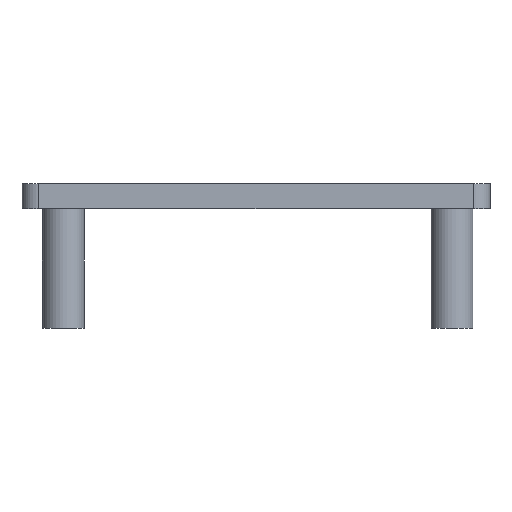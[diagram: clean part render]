
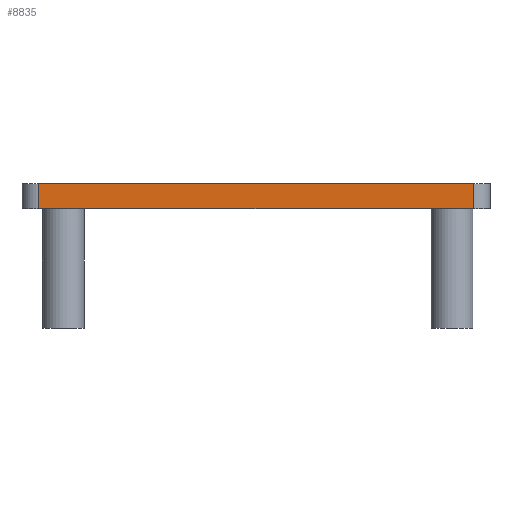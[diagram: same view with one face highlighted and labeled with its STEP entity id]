
A CAD part, front view. The second image highlights one B-rep face of the part: STEP entity #8835.
In plain terms, the highlighted planar face has unit normal (0, -1, 0).
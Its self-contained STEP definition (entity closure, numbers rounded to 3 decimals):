
#44 = PLANE('',#45);
#45 = AXIS2_PLACEMENT_3D('',#46,#47,#48);
#46 = CARTESIAN_POINT('',(-11.25,-4.6,65.7));
#47 = DIRECTION('',(0.,0.,1.));
#48 = DIRECTION('',(1.,0.,0.));
#72 = CYLINDRICAL_SURFACE('',#73,2.);
#73 = AXIS2_PLACEMENT_3D('',#74,#75,#76);
#74 = CARTESIAN_POINT('',(-9.25,-2.6,62.7));
#75 = DIRECTION('',(0.,0.,1.));
#76 = DIRECTION('',(-1.,-0.,0.));
#100 = PLANE('',#101);
#101 = AXIS2_PLACEMENT_3D('',#102,#103,#104);
#102 = CARTESIAN_POINT('',(-11.25,-4.6,62.7));
#103 = DIRECTION('',(0.,0.,1.));
#104 = DIRECTION('',(1.,0.,0.));
#143 = VERTEX_POINT('',#144);
#144 = CARTESIAN_POINT('',(-9.25,-4.6,65.7));
#166 = EDGE_CURVE('',#143,#167,#169,.T.);
#167 = VERTEX_POINT('',#168);
#168 = CARTESIAN_POINT('',(42.75,-4.6,65.7));
#169 = SURFACE_CURVE('',#170,(#174,#181),.PCURVE_S1.);
#170 = LINE('',#171,#172);
#171 = CARTESIAN_POINT('',(-11.25,-4.6,65.7));
#172 = VECTOR('',#173,1.);
#173 = DIRECTION('',(1.,0.,0.));
#174 = PCURVE('',#44,#175);
#175 = DEFINITIONAL_REPRESENTATION('',(#176),#180);
#176 = LINE('',#177,#178);
#177 = CARTESIAN_POINT('',(0.,0.));
#178 = VECTOR('',#179,1.);
#179 = DIRECTION('',(1.,0.));
#180 = ( GEOMETRIC_REPRESENTATION_CONTEXT(2) 
PARAMETRIC_REPRESENTATION_CONTEXT() REPRESENTATION_CONTEXT('2D SPACE',''
  ) );
#181 = PCURVE('',#182,#187);
#182 = PLANE('',#183);
#183 = AXIS2_PLACEMENT_3D('',#184,#185,#186);
#184 = CARTESIAN_POINT('',(-11.25,-4.6,62.7));
#185 = DIRECTION('',(0.,1.,0.));
#186 = DIRECTION('',(0.,0.,1.));
#187 = DEFINITIONAL_REPRESENTATION('',(#188),#192);
#188 = LINE('',#189,#190);
#189 = CARTESIAN_POINT('',(3.,0.));
#190 = VECTOR('',#191,1.);
#191 = DIRECTION('',(0.,1.));
#192 = ( GEOMETRIC_REPRESENTATION_CONTEXT(2) 
PARAMETRIC_REPRESENTATION_CONTEXT() REPRESENTATION_CONTEXT('2D SPACE',''
  ) );
#215 = CYLINDRICAL_SURFACE('',#216,2.);
#216 = AXIS2_PLACEMENT_3D('',#217,#218,#219);
#217 = CARTESIAN_POINT('',(42.75,-2.6,62.7));
#218 = DIRECTION('',(0.,0.,1.));
#219 = DIRECTION('',(1.,0.,-0.));
#7771 = VERTEX_POINT('',#7772);
#7772 = CARTESIAN_POINT('',(-9.25,-4.6,62.7));
#7794 = EDGE_CURVE('',#7771,#143,#7795,.T.);
#7795 = SURFACE_CURVE('',#7796,(#7800,#7807),.PCURVE_S1.);
#7796 = LINE('',#7797,#7798);
#7797 = CARTESIAN_POINT('',(-9.25,-4.6,62.7));
#7798 = VECTOR('',#7799,1.);
#7799 = DIRECTION('',(0.,0.,1.));
#7800 = PCURVE('',#72,#7801);
#7801 = DEFINITIONAL_REPRESENTATION('',(#7802),#7806);
#7802 = LINE('',#7803,#7804);
#7803 = CARTESIAN_POINT('',(1.571,0.));
#7804 = VECTOR('',#7805,1.);
#7805 = DIRECTION('',(0.,1.));
#7806 = ( GEOMETRIC_REPRESENTATION_CONTEXT(2) 
PARAMETRIC_REPRESENTATION_CONTEXT() REPRESENTATION_CONTEXT('2D SPACE',''
  ) );
#7807 = PCURVE('',#182,#7808);
#7808 = DEFINITIONAL_REPRESENTATION('',(#7809),#7813);
#7809 = LINE('',#7810,#7811);
#7810 = CARTESIAN_POINT('',(0.,2.));
#7811 = VECTOR('',#7812,1.);
#7812 = DIRECTION('',(1.,0.));
#7813 = ( GEOMETRIC_REPRESENTATION_CONTEXT(2) 
PARAMETRIC_REPRESENTATION_CONTEXT() REPRESENTATION_CONTEXT('2D SPACE',''
  ) );
#7876 = EDGE_CURVE('',#7771,#7877,#7879,.T.);
#7877 = VERTEX_POINT('',#7878);
#7878 = CARTESIAN_POINT('',(42.75,-4.6,62.7));
#7879 = SURFACE_CURVE('',#7880,(#7884,#7891),.PCURVE_S1.);
#7880 = LINE('',#7881,#7882);
#7881 = CARTESIAN_POINT('',(-11.25,-4.6,62.7));
#7882 = VECTOR('',#7883,1.);
#7883 = DIRECTION('',(1.,0.,0.));
#7884 = PCURVE('',#100,#7885);
#7885 = DEFINITIONAL_REPRESENTATION('',(#7886),#7890);
#7886 = LINE('',#7887,#7888);
#7887 = CARTESIAN_POINT('',(0.,0.));
#7888 = VECTOR('',#7889,1.);
#7889 = DIRECTION('',(1.,0.));
#7890 = ( GEOMETRIC_REPRESENTATION_CONTEXT(2) 
PARAMETRIC_REPRESENTATION_CONTEXT() REPRESENTATION_CONTEXT('2D SPACE',''
  ) );
#7891 = PCURVE('',#182,#7892);
#7892 = DEFINITIONAL_REPRESENTATION('',(#7893),#7897);
#7893 = LINE('',#7894,#7895);
#7894 = CARTESIAN_POINT('',(0.,0.));
#7895 = VECTOR('',#7896,1.);
#7896 = DIRECTION('',(0.,1.));
#7897 = ( GEOMETRIC_REPRESENTATION_CONTEXT(2) 
PARAMETRIC_REPRESENTATION_CONTEXT() REPRESENTATION_CONTEXT('2D SPACE',''
  ) );
#8835 = ADVANCED_FACE('',(#8836),#182,.F.);
#8836 = FACE_BOUND('',#8837,.F.);
#8837 = EDGE_LOOP('',(#8838,#8839,#8840,#8841));
#8838 = ORIENTED_EDGE('',*,*,#7876,.F.);
#8839 = ORIENTED_EDGE('',*,*,#7794,.T.);
#8840 = ORIENTED_EDGE('',*,*,#166,.T.);
#8841 = ORIENTED_EDGE('',*,*,#8842,.F.);
#8842 = EDGE_CURVE('',#7877,#167,#8843,.T.);
#8843 = SURFACE_CURVE('',#8844,(#8848,#8855),.PCURVE_S1.);
#8844 = LINE('',#8845,#8846);
#8845 = CARTESIAN_POINT('',(42.75,-4.6,62.7));
#8846 = VECTOR('',#8847,1.);
#8847 = DIRECTION('',(0.,0.,1.));
#8848 = PCURVE('',#182,#8849);
#8849 = DEFINITIONAL_REPRESENTATION('',(#8850),#8854);
#8850 = LINE('',#8851,#8852);
#8851 = CARTESIAN_POINT('',(0.,54.));
#8852 = VECTOR('',#8853,1.);
#8853 = DIRECTION('',(1.,0.));
#8854 = ( GEOMETRIC_REPRESENTATION_CONTEXT(2) 
PARAMETRIC_REPRESENTATION_CONTEXT() REPRESENTATION_CONTEXT('2D SPACE',''
  ) );
#8855 = PCURVE('',#215,#8856);
#8856 = DEFINITIONAL_REPRESENTATION('',(#8857),#8861);
#8857 = LINE('',#8858,#8859);
#8858 = CARTESIAN_POINT('',(-1.571,0.));
#8859 = VECTOR('',#8860,1.);
#8860 = DIRECTION('',(-0.,1.));
#8861 = ( GEOMETRIC_REPRESENTATION_CONTEXT(2) 
PARAMETRIC_REPRESENTATION_CONTEXT() REPRESENTATION_CONTEXT('2D SPACE',''
  ) );
